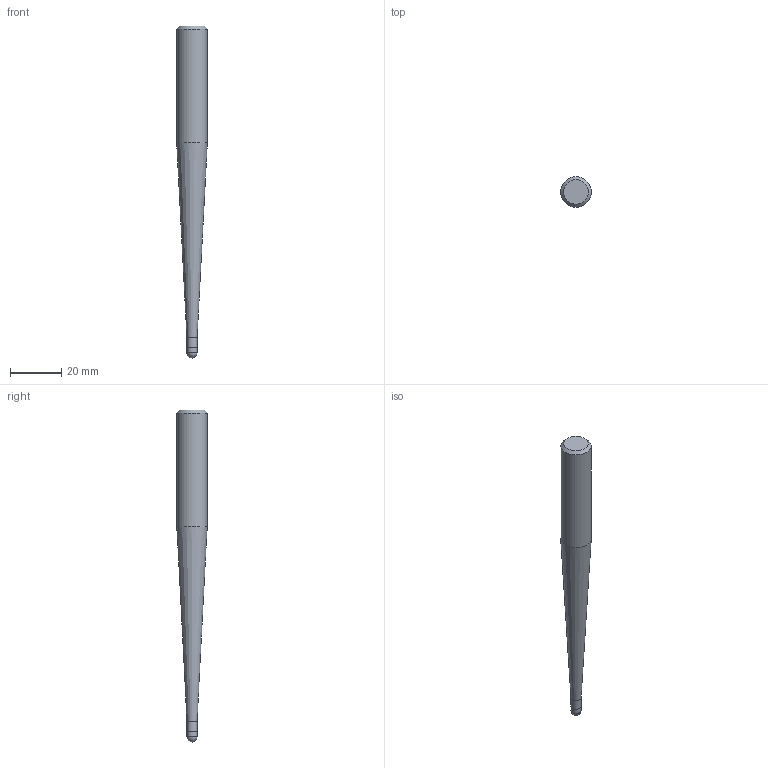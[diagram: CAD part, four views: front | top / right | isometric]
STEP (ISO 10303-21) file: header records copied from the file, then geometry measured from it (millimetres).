
FILE_DESCRIPTION((''),'2;1');
FILE_NAME('C:\Users\nsx150\AppData\Local\Temp\Mastercam 2021\SNAKH10GOD\TEMP.step','2021-10-21T13:33:42',(''),(''),'STEP Write','Mastercam 2021 ... CNC Software, Inc.','');
FILE_SCHEMA(('AUTOMOTIVE_DESIGN'));
Length unit declared in the file: millimetre
Products named in the file (1): None
Bounding box: 12 x 12 x 130 mm (x, y, z)
Volume: 9381.7 mm3; surface area: 3850.7 mm2
Topology: 2 solids, 2 shells, 9 faces, 14 edges, 8 vertices
Faces by surface type: plane 3, cylinder 3, cone 2, sphere 1
Full cylindrical faces by diameter (mm): 3.98 x1, 4 x1, 12 x1
Entity records: 211 total; most frequent: DIRECTION 36, CARTESIAN_POINT 25, AXIS2_PLACEMENT_3D 18, ORIENTED_EDGE 14, EDGE_LOOP 14, STYLED_ITEM 12, ADVANCED_FACE 9, FACE_BOUND 8
